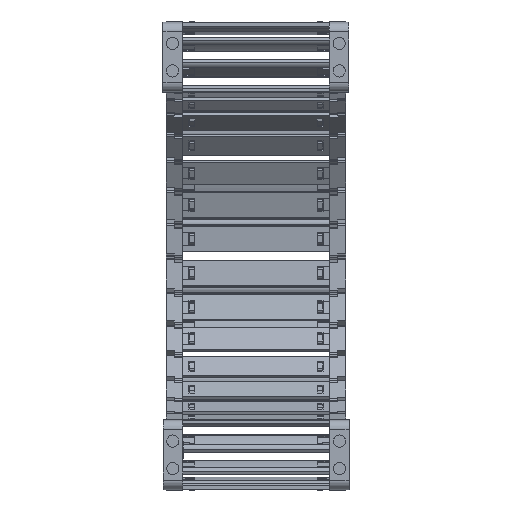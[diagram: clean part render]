
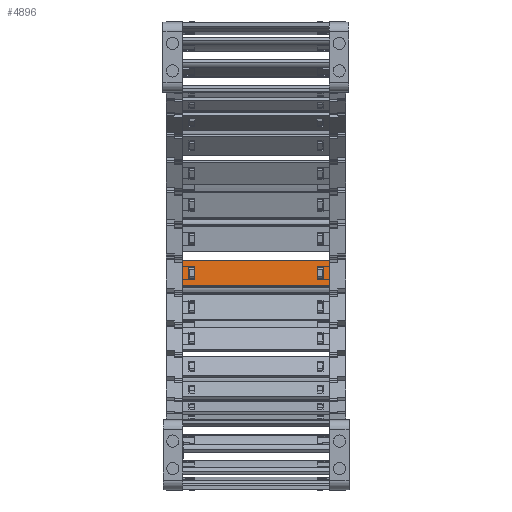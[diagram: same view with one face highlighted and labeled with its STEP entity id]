
A CAD part, left-side view. The second image highlights one B-rep face of the part: STEP entity #4896.
In plain terms, the highlighted planar face has unit normal (-0.995, 0, 0.104) as drawn and (0, 1, 0) by its records, which use the part's own axes.
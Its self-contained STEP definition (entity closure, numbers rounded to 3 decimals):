
#4022=DIRECTION('',(0.,0.,1.));
#4023=VECTOR('',#4022,15.8);
#4024=CARTESIAN_POINT('',(75.74,1.5,-7.9));
#4025=LINE('',#4024,#4023);
#4029=DIRECTION('',(-1.,0.,0.));
#4030=VECTOR('',#4029,90.5);
#4031=CARTESIAN_POINT('',(75.74,1.5,7.9));
#4032=LINE('',#4031,#4030);
#4036=DIRECTION('',(0.,0.,-1.));
#4037=VECTOR('',#4036,15.8);
#4038=CARTESIAN_POINT('',(-14.76,1.5,7.9));
#4039=LINE('',#4038,#4037);
#4043=DIRECTION('',(1.,0.,0.));
#4044=VECTOR('',#4043,3.648);
#4045=CARTESIAN_POINT('',(68.122,1.5,4.075));
#4046=LINE('',#4045,#4044);
#4050=DIRECTION('',(0.,0.,-1.));
#4051=VECTOR('',#4050,8.15);
#4052=CARTESIAN_POINT('',(71.77,1.5,4.075));
#4053=LINE('',#4052,#4051);
#4057=DIRECTION('',(-1.,0.,0.));
#4058=VECTOR('',#4057,3.648);
#4059=CARTESIAN_POINT('',(71.77,1.5,-4.075));
#4060=LINE('',#4059,#4058);
#4064=DIRECTION('',(0.,0.,-1.));
#4065=VECTOR('',#4064,8.15);
#4066=CARTESIAN_POINT('',(-7.142,1.5,4.075));
#4067=LINE('',#4066,#4065);
#4071=DIRECTION('',(-1.,0.,0.));
#4072=VECTOR('',#4071,3.648);
#4073=CARTESIAN_POINT('',(-7.142,1.5,-4.075));
#4074=LINE('',#4073,#4072);
#4078=DIRECTION('',(0.,0.,1.));
#4079=VECTOR('',#4078,8.15);
#4080=CARTESIAN_POINT('',(-10.79,1.5,-4.075));
#4081=LINE('',#4080,#4079);
#4085=DIRECTION('',(1.,0.,0.));
#4086=VECTOR('',#4085,3.648);
#4087=CARTESIAN_POINT('',(-10.79,1.5,4.075));
#4088=LINE('',#4087,#4086);
#4099=DIRECTION('',(-1.,0.,0.));
#4100=VECTOR('',#4099,90.5);
#4101=CARTESIAN_POINT('',(75.74,1.5,-7.9));
#4102=LINE('',#4101,#4100);
#4307=DIRECTION('',(0.,0.,-1.));
#4308=VECTOR('',#4307,8.15);
#4309=CARTESIAN_POINT('',(68.122,1.5,4.075));
#4310=LINE('',#4309,#4308);
#4606=CARTESIAN_POINT('',(71.77,1.5,4.075));
#4607=VERTEX_POINT('',#4606);
#4608=CARTESIAN_POINT('',(68.122,1.5,4.075));
#4609=VERTEX_POINT('',#4608);
#4650=CARTESIAN_POINT('',(68.122,1.5,-4.075));
#4651=VERTEX_POINT('',#4650);
#4652=CARTESIAN_POINT('',(71.77,1.5,-4.075));
#4653=VERTEX_POINT('',#4652);
#4654=CARTESIAN_POINT('',(75.74,1.5,7.9));
#4656=VERTEX_POINT('',#4654);
#4658=CARTESIAN_POINT('',(75.74,1.5,-7.9));
#4659=VERTEX_POINT('',#4658);
#4682=CARTESIAN_POINT('',(-7.142,1.5,4.075));
#4683=CARTESIAN_POINT('',(-7.142,1.5,-4.075));
#4684=VERTEX_POINT('',#4682);
#4685=VERTEX_POINT('',#4683);
#4686=CARTESIAN_POINT('',(-10.79,1.5,-4.075));
#4687=VERTEX_POINT('',#4686);
#4688=CARTESIAN_POINT('',(-10.79,1.5,4.075));
#4689=VERTEX_POINT('',#4688);
#4690=CARTESIAN_POINT('',(-14.76,1.5,7.9));
#4691=VERTEX_POINT('',#4690);
#4694=CARTESIAN_POINT('',(-14.76,1.5,-7.9));
#4695=VERTEX_POINT('',#4694);
#4865=CARTESIAN_POINT('',(107.48,1.5,10.061));
#4866=DIRECTION('',(0.,-1.,0.));
#4867=DIRECTION('',(0.,0.,-1.));
#4868=AXIS2_PLACEMENT_3D('',#4865,#4866,#4867);
#4869=PLANE('',#4868);
#4870=ORIENTED_EDGE('',*,*,#4768,.T.);
#4871=ORIENTED_EDGE('',*,*,#4806,.T.);
#4872=ORIENTED_EDGE('',*,*,#4831,.T.);
#4874=ORIENTED_EDGE('',*,*,#4873,.F.);
#4875=EDGE_LOOP('',(#4870,#4871,#4872,#4874));
#4876=FACE_OUTER_BOUND('',#4875,.F.);
#4878=ORIENTED_EDGE('',*,*,#4877,.F.);
#4879=ORIENTED_EDGE('',*,*,#4707,.T.);
#4881=ORIENTED_EDGE('',*,*,#4880,.T.);
#4883=ORIENTED_EDGE('',*,*,#4882,.T.);
#4884=EDGE_LOOP('',(#4878,#4879,#4881,#4883));
#4885=FACE_BOUND('',#4884,.F.);
#4887=ORIENTED_EDGE('',*,*,#4886,.T.);
#4889=ORIENTED_EDGE('',*,*,#4888,.T.);
#4891=ORIENTED_EDGE('',*,*,#4890,.T.);
#4893=ORIENTED_EDGE('',*,*,#4892,.T.);
#4894=EDGE_LOOP('',(#4887,#4889,#4891,#4893));
#4895=FACE_BOUND('',#4894,.F.);
#4896=ADVANCED_FACE('',(#4876,#4885,#4895),#4869,.F.);
#4707=EDGE_CURVE('',#4609,#4607,#4046,.T.);
#4768=EDGE_CURVE('',#4659,#4656,#4025,.T.);
#4806=EDGE_CURVE('',#4656,#4691,#4032,.T.);
#4831=EDGE_CURVE('',#4691,#4695,#4039,.T.);
#4873=EDGE_CURVE('',#4659,#4695,#4102,.T.);
#4877=EDGE_CURVE('',#4609,#4651,#4310,.T.);
#4880=EDGE_CURVE('',#4607,#4653,#4053,.T.);
#4882=EDGE_CURVE('',#4653,#4651,#4060,.T.);
#4886=EDGE_CURVE('',#4684,#4685,#4067,.T.);
#4888=EDGE_CURVE('',#4685,#4687,#4074,.T.);
#4890=EDGE_CURVE('',#4687,#4689,#4081,.T.);
#4892=EDGE_CURVE('',#4689,#4684,#4088,.T.);
